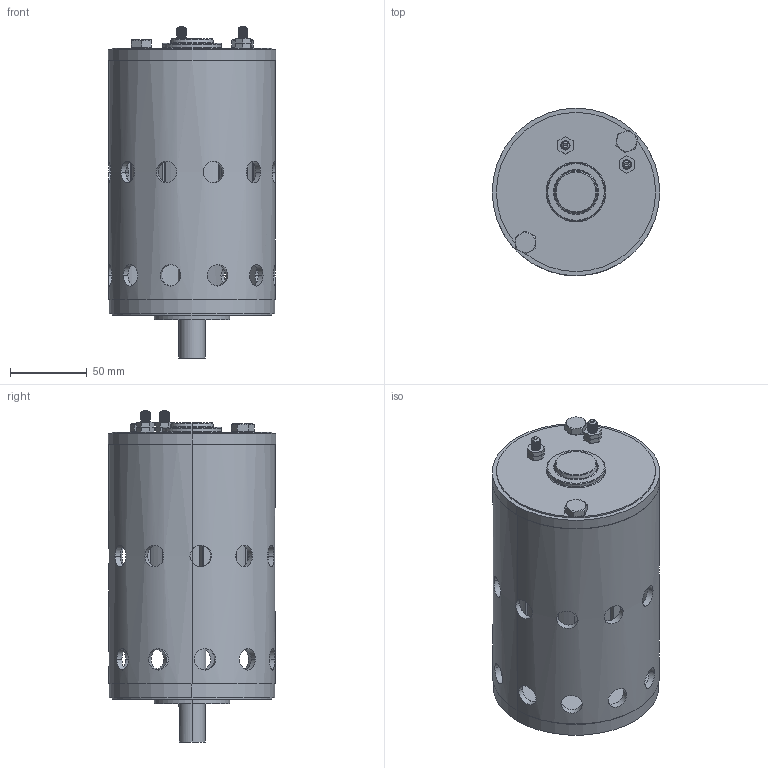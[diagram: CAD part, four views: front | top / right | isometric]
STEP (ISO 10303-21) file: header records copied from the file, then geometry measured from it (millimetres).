
FILE_DESCRIPTION (( 'STEP AP214' ), '1' );
FILE_NAME ('M1084-2017.STEP', '2017-06-12T12:02:28', ( 'Sky123.Org' ), ( 'Sky123.Org' ), 'SwSTEP 2.0', 'SolidWorks 2015', '' );
FILE_SCHEMA (( 'AUTOMOTIVE_DESIGN' ));
Length unit declared in the file: millimetre
Products named in the file (10): 組合件2^M1084-2017; 1084 美轉子 longer; 1084整流; 1084-longer; socket set screw cup point_din_DIN 916 - M6 x 8-S; hex thin nut gradeb_din_Hexagon Nut ISO 4036 - M6 - N; hex screw gradeab fine_din_ISO 8676 - M8x1 x 16-N; socket set screw cup point_din_DIN 916 - M8 x 8-S; 複製 of M1080^M1084-2017; M1084-2017
Assembly tree (15 placements, depth 4):
  M1084-2017
    複製 of M1080^M1084-2017
    socket set screw cup point_din_DIN 916 - M8 x 8-S  x2
    hex screw gradeab fine_din_ISO 8676 - M8x1 x 16-N  x2
    hex thin nut gradeb_din_Hexagon Nut ISO 4036 - M6 - N  x4
    socket set screw cup point_din_DIN 916 - M6 x 8-S  x2
    組合件2^M1084-2017
      1084 美轉子 longer
        1084-longer
        1084整流
Bounding box: 109.5 x 109.5 x 216.9 mm (x, y, z)
Volume: 665601.5 mm3; surface area: 254237.7 mm2
Topology: 14 solids, 14 shells, 1262 faces, 3086 edges, 1882 vertices
Faces by surface type: cylinder 506, plane 301, torus 237, cone 178, bspline 40
Entity records: 39905 total; most frequent: CARTESIAN_POINT 12320, ORIENTED_EDGE 5268, DIRECTION 5126, EDGE_CURVE 2634, AXIS2_PLACEMENT_3D 1986, VERTEX_POINT 1608, EDGE_LOOP 1180, VECTOR 1154
